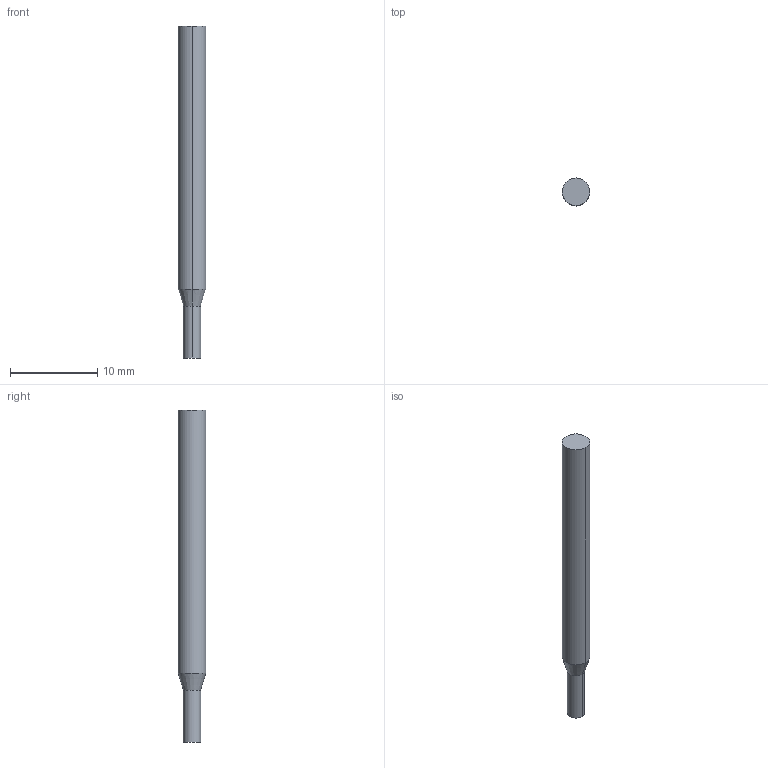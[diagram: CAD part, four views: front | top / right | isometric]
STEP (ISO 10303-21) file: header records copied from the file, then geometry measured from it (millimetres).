
FILE_DESCRIPTION((' '),'2;1');
FILE_NAME( '3MVR0781AH.stp', '2026-01-21T19:05:19', (' '), ('--- Datakit www.datakit.com---'), ' Datakit CrossCadWare V2025.4 Sep 19 2025', 'Mastercam 2027', ' ');
FILE_SCHEMA(('AUTOMOTIVE_DESIGN { 1 0 10303 214 1 1 1 1 }'));
Length unit declared in the file: inch
Products named in the file (1): 3MVR0781AH
Bounding box: 3.17 x 3.17 x 38.1 mm (x, y, z)
Volume: 267.9 mm3; surface area: 365.9 mm2
Topology: 1 solids, 1 shells, 8 faces, 14 edges, 8 vertices
Faces by surface type: cylinder 4, plane 2, cone 2
Entity records: 264 total; most frequent: DIRECTION 48, CARTESIAN_POINT 35, ORIENTED_EDGE 28, AXIS2_PLACEMENT_3D 21, EDGE_CURVE 14, VERTEX_POINT 8, CIRCLE 8, EDGE_LOOP 8
